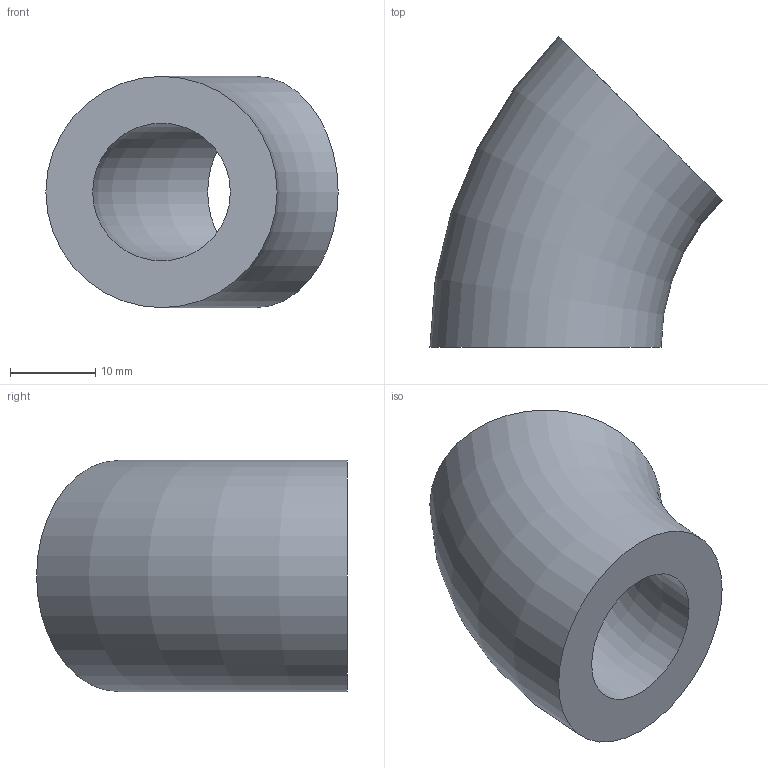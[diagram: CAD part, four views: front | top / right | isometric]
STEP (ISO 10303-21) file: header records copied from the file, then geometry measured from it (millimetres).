
FILE_DESCRIPTION(/* description */ (''),/* implementation_level */ '2;1');
FILE_NAME(/* name */ 'C:\Users\D\Documents\Inventor\HP\JIS\配管\エルボ ロング 45°\Sch160\Elbow45-long-20A-Sch160.stp',/* time_stamp */ '2022-06-08T17:06:23+09:00',/* author */ ('D'),/* organization */ (''),/* preprocessor_version */ 'ST-DEVELOPER v18',/* originating_system */ 'Autodesk Inventor 2020',/* authorisation */ '');
FILE_SCHEMA (('AUTOMOTIVE_DESIGN { 1 0 10303 214 3 1 1 }'));
Length unit declared in the file: millimetre
Products named in the file (1): Elbow-long-90-15A-SGP
Bounding box: 34.38 x 36.56 x 27.2 mm (x, y, z)
Volume: 11219.9 mm3; surface area: 4829.8 mm2
Topology: 1 solids, 1 shells, 4 faces, 10 edges, 8 vertices
Faces by surface type: torus 2, plane 2
Entity records: 181 total; most frequent: DIRECTION 30, CARTESIAN_POINT 23, ORIENTED_EDGE 20, AXIS2_PLACEMENT_3D 15, CIRCLE 10, EDGE_CURVE 10, VERTEX_POINT 8, EDGE_LOOP 6
